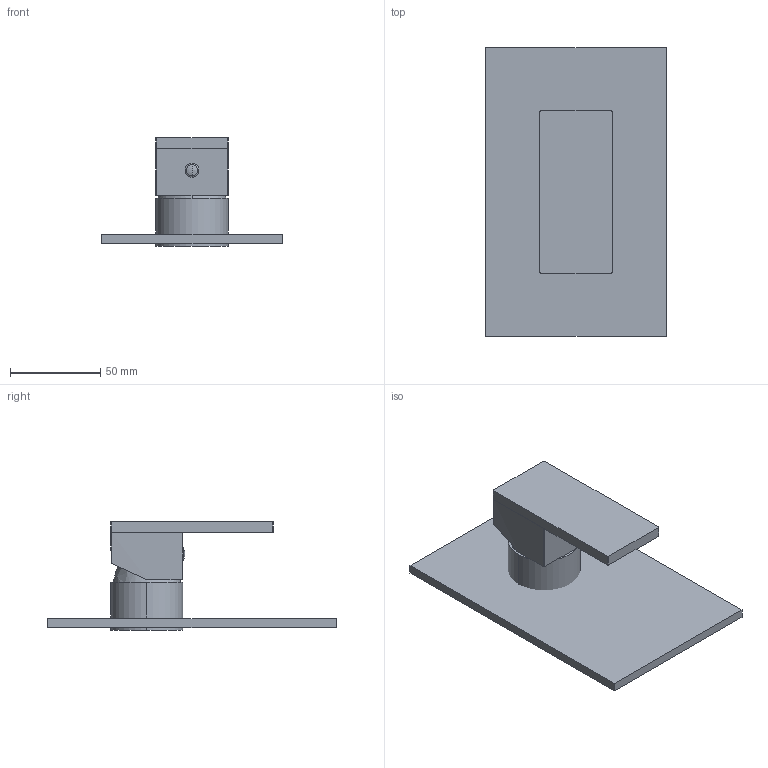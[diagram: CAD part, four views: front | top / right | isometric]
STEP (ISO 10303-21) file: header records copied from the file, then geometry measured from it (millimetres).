
FILE_DESCRIPTION(('FreeCAD Model'),'2;1');
FILE_NAME('Open CASCADE Shape Model','2024-08-08T17:26:12',('Author'),( ''),'Open CASCADE STEP processor 7.6','FreeCAD','Unknown');
FILE_SCHEMA(('AUTOMOTIVE_DESIGN { 1 0 10303 214 1 1 1 1 }'));
Length unit declared in the file: millimetre
Products named in the file (7): TopLevelAssembly; Obrót profilu; Połączona geometria bryłowa001; Wyciąganie001; Połączona geometria bryłowa002; Wyciąganie006; Wyciąganie007
Assembly tree (6 placements, depth 2):
  TopLevelAssembly
    Obrót profilu
    Połączona geometria bryłowa001
    Wyciąganie001
    Połączona geometria bryłowa002
    Wyciąganie006
    Wyciąganie007
Bounding box: 100 x 160 x 60.1 mm (x, y, z)
Volume: 209675.4 mm3; surface area: 68349.6 mm2
Topology: 6 solids, 6 shells, 49 faces, 108 edges, 68 vertices
Faces by surface type: plane 29, cylinder 14, bspline 6
Entity records: 1554 total; most frequent: CARTESIAN_POINT 312, DIRECTION 242, ORIENTED_EDGE 208, EDGE_CURVE 104, AXIS2_PLACEMENT_3D 88, VERTEX_POINT 68, LINE 66, VECTOR 66
